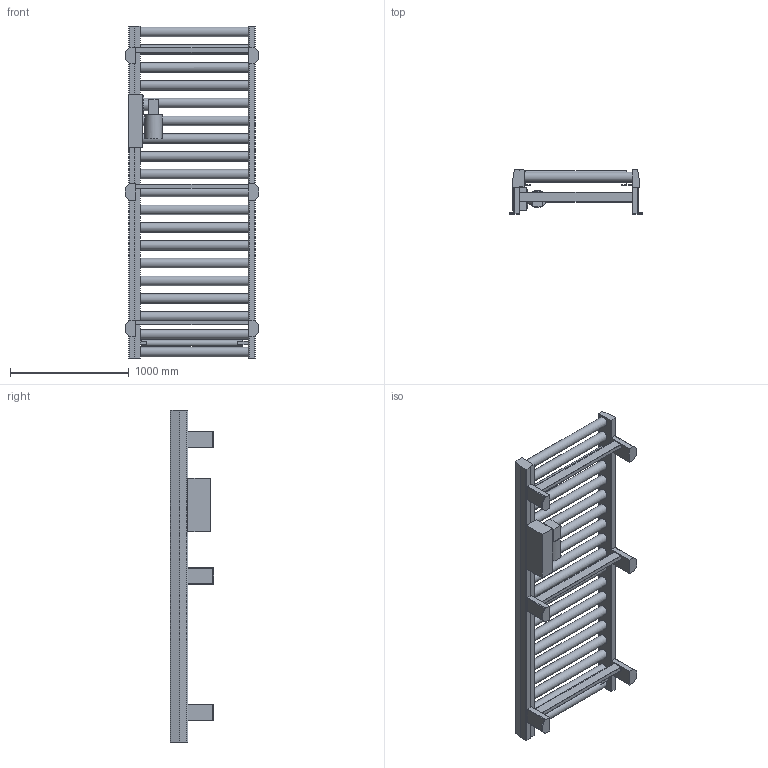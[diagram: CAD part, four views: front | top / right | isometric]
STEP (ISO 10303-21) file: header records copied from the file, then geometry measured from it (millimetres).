
FILE_DESCRIPTION((''),'2;1');
FILE_NAME('C:\Vault_Working_Folder\Designs\Inventor\Lättviktsmodeller\Maxi\IRKS 80-150-950-2800.stp','2012-11-13T08:45:54',('martin.samuelsson'),(''),'Autodesk Inventor 2013','Autodesk Inventor 2013','');
FILE_SCHEMA(('AUTOMOTIVE_DESIGN { 1 0 10303 214 1 1 1 1 }'));
Length unit declared in the file: millimetre
Products named in the file (1): IRKS 80-150-950-2800
Bounding box: 1122 x 370 x 2800 mm (x, y, z)
Volume: 176738281.5 mm3; surface area: 8811997.9 mm2
Topology: 6 solids, 6 shells, 194 faces, 499 edges, 328 vertices
Faces by surface type: plane 145, cylinder 49
Full cylindrical faces by diameter (mm): 50 x1, 80 x19, 90 x1, 145 x1, 160 x1
Entity records: 5936 total; most frequent: CARTESIAN_POINT 997, DIRECTION 972, ORIENTED_EDGE 950, EDGE_CURVE 475, VECTOR 368, LINE 368, VERTEX_POINT 327, AXIS2_PLACEMENT_3D 302
